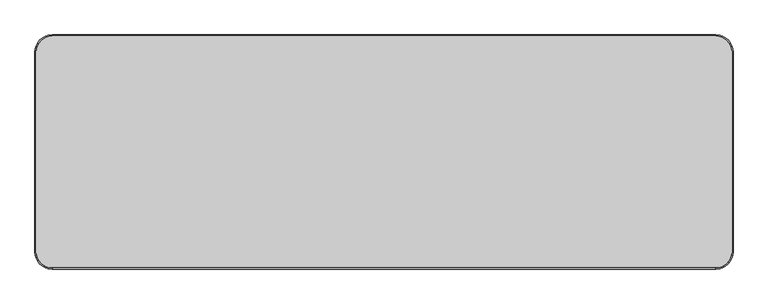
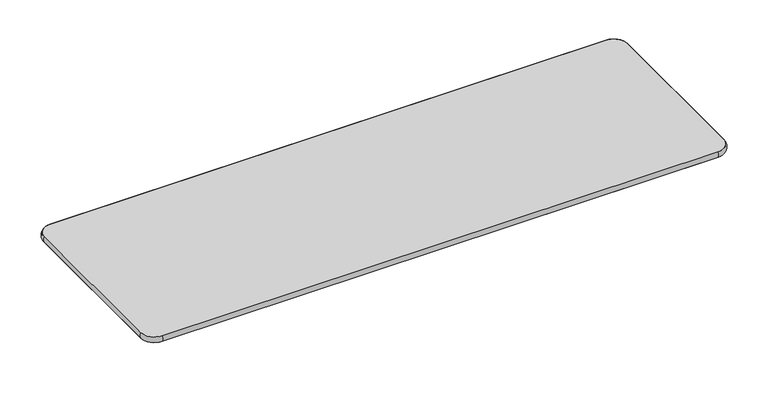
"""IFC4 building model written with IfcOpenShell, lengths in millimetres: furniture geometry, Mesa para refeitório : Mesa para refeitório 180x60cm cód 70472.4."""

import ifcopenshell
import ifcopenshell.guid

model = None  # the IFC model being written
_history = None  # IfcOwnerHistory: only IFC2X3 demands one
_inside = {}  # id of a spatial element -> (the spatial element, [elements in it])
_under = {}  # id of a project, library or spatial element -> (it, [spatial elements below it])
_declared = {}  # id of a project -> (the project, [libraries it declares])
_typed = {}  # id of a type object -> (the type object, [elements of that type])
_made_of = {}  # id of a material, layer set ... -> (it, [elements and type objects made of it])


def new_model(schema):
    """Start an empty IFC model of exactly this schema.

    Asked for "IFC4X3", IfcOpenShell would pick the latest addendum, in which some entities
    have other attributes; the version numbers below select the first issue.
    IFC2X3 requires an IfcOwnerHistory on every rooted entity: one is made here for all.
    """
    global model, _history
    if schema == "IFC4X3":
        model = ifcopenshell.file(schema_version=(4, 3, 0, 0))
    else:
        model = ifcopenshell.file(schema=schema)
    _inside.clear()
    _under.clear()
    _declared.clear()
    _typed.clear()
    _made_of.clear()
    _history = None
    if model.schema == "IFC2X3":
        org = make("IfcOrganization", Name="unknown")
        user = make(
            "IfcPersonAndOrganization",
            ThePerson=make("IfcPerson", FamilyName="unknown"),
            TheOrganization=org,
        )
        app = make(
            "IfcApplication",
            ApplicationDeveloper=org,
            Version="unknown",
            ApplicationFullName="unknown",
            ApplicationIdentifier="unknown",
        )
        _history = make(
            "IfcOwnerHistory",
            OwningUser=user,
            OwningApplication=app,
            ChangeAction="ADDED",
            CreationDate=0,
        )
    return model


def make(cls, **values):
    """One entity of the class cls with the attributes given. An attribute that is None is left unset."""
    return model.create_entity(
        cls, **{name: value for name, value in values.items() if value is not None}
    )


def rooted(cls, **values):
    """An entity with a GlobalId (a new one), such as an element, a storey or a relation."""
    return make(cls, GlobalId=ifcopenshell.guid.new(), OwnerHistory=_history, **values)


def si_unit(unit_type, name, prefix=None):
    """IfcSIUnit, for example si_unit("LENGTHUNIT", "METRE", prefix="MILLI")."""
    return make("IfcSIUnit", UnitType=unit_type, Prefix=prefix, Name=name)


def assignment(units):
    """IfcUnitAssignment: the units of a project."""
    return None if units is None else make("IfcUnitAssignment", Units=units)


def point(xyz):
    """IfcCartesianPoint."""
    return None if xyz is None else make("IfcCartesianPoint", Coordinates=xyz)


def direction(xyz):
    """IfcDirection."""
    return None if xyz is None else make("IfcDirection", DirectionRatios=xyz)


def frame(location, z_axis=None, x_axis=None):
    """IfcAxis2Placement3D, a coordinate frame: its origin and axes. An axis left out is left unset."""
    return make(
        "IfcAxis2Placement3D",
        Location=point(location),
        Axis=direction(z_axis),
        RefDirection=direction(x_axis),
    )


def frame_2d(location, x_axis=None):
    """IfcAxis2Placement2D, a coordinate frame in the plane: its origin and x axis."""
    return make(
        "IfcAxis2Placement2D", Location=point(location), RefDirection=direction(x_axis)
    )


def origin():
    """The frame at (0, 0, 0) with its axes left unset."""
    return frame((0.0, 0.0, 0.0))


def place(relative_to, where):
    """IfcLocalPlacement: puts the frame where relative to a parent placement (None: the world)."""
    return make(
        "IfcLocalPlacement", PlacementRelTo=relative_to, RelativePlacement=where
    )


def context(
    kind, dimensions, precision=None, world=None, true_north=None, identifier=None
):
    """IfcGeometricRepresentationContext, for example the 3D "Model" context."""
    return make(
        "IfcGeometricRepresentationContext",
        ContextIdentifier=identifier,
        ContextType=kind,
        CoordinateSpaceDimension=dimensions,
        Precision=precision,
        WorldCoordinateSystem=world,
        TrueNorth=true_north,
    )


def project(units=None, contexts=None):
    """IfcProject with its units and contexts."""
    return rooted(
        "IfcProject",
        Name="project",
        RepresentationContexts=contexts,
        UnitsInContext=assignment(units),
    )


def spatial(cls, under=None, at=None, **own):
    """A site, building, storey or space (cls), placed at a placement, below another one or the project."""
    s = rooted(cls, ObjectPlacement=at, **own)
    if under is not None:
        _under.setdefault(under.id(), (under, []))[1].append(s)
    return s


def polyline(points):
    """IfcPolyline through the points."""
    return make("IfcPolyline", Points=[point(p) for p in points])


def circle_curve(where, radius):
    """IfcCircle in the frame where."""
    return make("IfcCircle", Position=where, Radius=radius)


def ellipse_curve(where, semi_axis1, semi_axis2):
    """IfcEllipse in the frame where."""
    return make(
        "IfcEllipse", Position=where, SemiAxis1=semi_axis1, SemiAxis2=semi_axis2
    )


def trimmed(basis, trim1, trim2, sense, master):
    """IfcTrimmedCurve: the piece of a basis curve between two trims."""
    return make(
        "IfcTrimmedCurve",
        BasisCurve=basis,
        Trim1=trim1,
        Trim2=trim2,
        SenseAgreement=sense,
        MasterRepresentation=master,
    )


def segment(curve, same_sense, transition):
    """IfcCompositeCurveSegment."""
    return make(
        "IfcCompositeCurveSegment",
        Transition=transition,
        SameSense=same_sense,
        ParentCurve=curve,
    )


def composite_curve(segments, self_intersect=None):
    """IfcCompositeCurve: segments joined end to end."""
    return make("IfcCompositeCurve", Segments=segments, SelfIntersect=self_intersect)


def outline(outer, holes=None, kind="AREA"):
    """IfcArbitraryClosedProfileDef: a profile drawn as a closed curve; with holes, ...WithVoids."""
    if holes is None:
        return make("IfcArbitraryClosedProfileDef", ProfileType=kind, OuterCurve=outer)
    return make(
        "IfcArbitraryProfileDefWithVoids",
        ProfileType=kind,
        OuterCurve=outer,
        InnerCurves=holes,
    )


def extrude(swept, where, along, depth):
    """IfcExtrudedAreaSolid: the profile swept, set in the frame where, extruded along a direction by depth."""
    return make(
        "IfcExtrudedAreaSolid",
        SweptArea=swept,
        Position=where,
        ExtrudedDirection=direction(along),
        Depth=depth,
    )


def shape(context_of_items, identifier, shape_type, items):
    """IfcShapeRepresentation: the items that make up one representation, for example the "Body"."""
    return make(
        "IfcShapeRepresentation",
        ContextOfItems=context_of_items,
        RepresentationIdentifier=identifier,
        RepresentationType=shape_type,
        Items=items,
    )


def source(mapping_origin, context_of_items, identifier, shape_type, items):
    """IfcRepresentationMap: a shape defined once, which mapped items show again and again."""
    return make(
        "IfcRepresentationMap",
        MappingOrigin=mapping_origin,
        MappedRepresentation=shape(context_of_items, identifier, shape_type, items),
    )


def transform(
    local_origin,
    x_axis=None,
    y_axis=None,
    z_axis=None,
    scale=None,
    scale2=None,
    scale3=None,
    uniform=True,
):
    """IfcCartesianTransformationOperator3D, or its non-uniform kind. x_axis, y_axis, z_axis: its Axis1, 2, 3."""
    if uniform:
        return make(
            "IfcCartesianTransformationOperator3D",
            Axis1=direction(x_axis),
            Axis2=direction(y_axis),
            LocalOrigin=point(local_origin),
            Scale=scale,
            Axis3=direction(z_axis),
        )
    return make(
        "IfcCartesianTransformationOperator3DnonUniform",
        Axis1=direction(x_axis),
        Axis2=direction(y_axis),
        LocalOrigin=point(local_origin),
        Scale=scale,
        Axis3=direction(z_axis),
        Scale2=scale2,
        Scale3=scale3,
    )


def mapped(mapping_source, mapping_target):
    """IfcMappedItem: shows the shape of a source again, moved by a transform."""
    return make(
        "IfcMappedItem", MappingSource=mapping_source, MappingTarget=mapping_target
    )


def made_of(thing, what):
    """Note that an element or type object is made of a material, layer set ...; save() writes the relation."""
    if what is not None:
        _made_of.setdefault(what.id(), (what, []))[1].append(thing)
    return thing


def element(
    cls,
    number,
    at=None,
    inside=None,
    cuts=None,
    type_object=None,
    material=None,
    context=None,
    identifier="Body",
    shape_type=None,
    held_by="IfcProductDefinitionShape",
    body=None,
    shapes=None,
    **own,
):
    """One element of the class cls, such as IfcWall. Its Tag is "e" and its number.

    at: its placement. inside: the storey or other place that contains it. cuts: it is an
    opening in that element (IfcRelVoidsElement). A single representation is given by context,
    identifier, shape_type and body (its items); several are given by shapes. held_by: the class
    of the entity that holds the representations. save() writes the other relations.
    """
    e = rooted(cls, Tag="e%d" % number, ObjectPlacement=at, **own)
    if body is not None:
        shapes = [shape(context, identifier, shape_type, body)]
    if shapes is not None:
        e.Representation = make(held_by, Representations=shapes)
    if inside is not None:
        _inside.setdefault(inside.id(), (inside, []))[1].append(e)
    if cuts is not None:
        rooted(
            "IfcRelVoidsElement", RelatingBuildingElement=cuts, RelatedOpeningElement=e
        )
    if type_object is not None:
        _typed.setdefault(type_object.id(), (type_object, []))[1].append(e)
    return made_of(e, material)


def aggregate(whole, parts):
    """IfcRelAggregates: a whole, such as a stair, and the parts it consists of."""
    return rooted("IfcRelAggregates", RelatingObject=whole, RelatedObjects=parts)


def save(model, path):
    """Write the relations noted so far, then the file.

    IfcRelAggregates (storeys below a building ...), IfcRelContainedInSpatialStructure (elements
    in a storey), IfcRelDefinesByType, IfcRelAssociatesMaterial and IfcRelDeclares: one each for
    every whole, place, type object, material and project.
    """
    for whole, parts in _under.values():
        aggregate(whole, parts)
    for where, things in _inside.values():
        rooted(
            "IfcRelContainedInSpatialStructure",
            RelatedElements=things,
            RelatingStructure=where,
        )
    for kind, things in _typed.values():
        rooted("IfcRelDefinesByType", RelatedObjects=things, RelatingType=kind)
    for what, things in _made_of.values():
        rooted("IfcRelAssociatesMaterial", RelatedObjects=things, RelatingMaterial=what)
    for by, libraries in _declared.values():
        rooted("IfcRelDeclares", RelatingContext=by, RelatedDefinitions=libraries)
    model.write(path)


def plane_surface(at):
    """IfcPlane: the flat surface through the origin of the frame at, square to its z axis."""
    return make("IfcPlane", Position=at)


def cylinder_surface(at, radius):
    """IfcCylindricalSurface: all points at the distance radius from the z axis of the frame at."""
    return make("IfcCylindricalSurface", Position=at, Radius=radius)


def revolved_surface(curve, axis_point, axis_direction):
    """IfcSurfaceOfRevolution: the curve turned about the line through axis_point along axis_direction."""
    return make(
        "IfcSurfaceOfRevolution",
        SweptCurve=make("IfcArbitraryOpenProfileDef", ProfileType="CURVE", Curve=curve),
        AxisPosition=make("IfcAxis1Placement", Location=point(axis_point), Axis=direction(axis_direction)),
    )


def advanced_brep(points, edges, surfaces, faces):
    """IfcAdvancedBrep: a solid bounded by faces that lie on surfaces and meet in shared edges.

    An edge is (start, end): straight between two places in points (the first is 0);
    or (start, end, curve); or (start, end, curve, False) where it runs against its curve.
    A face is (place in surfaces, loops), or (place, loops, False) where it looks against
    its surface's normal. A loop lists edges by number (the first is 1), with a minus sign
    where the edge is run from its end to its start. The first loop is the outer one.
    """
    corners = [point(p) for p in points]
    vertices = [make("IfcVertexPoint", VertexGeometry=c) for c in corners]
    made = []
    for start, end, *more in edges:
        made.append(
            make(
                "IfcEdgeCurve",
                EdgeStart=vertices[start],
                EdgeEnd=vertices[end],
                EdgeGeometry=more[0] if more else make("IfcPolyline", Points=[corners[start], corners[end]]),
                SameSense=more[1] if len(more) > 1 else True,
            )
        )
    hull = []
    for where, loops, *sense in faces:
        bounds = []
        for j, loop in enumerate(loops):
            ring = [make("IfcOrientedEdge", EdgeElement=made[abs(k) - 1], Orientation=k > 0) for k in loop]
            bounds.append(
                make(
                    "IfcFaceOuterBound" if j == 0 else "IfcFaceBound",
                    Bound=make("IfcEdgeLoop", EdgeList=ring),
                    Orientation=True,
                )
            )
        hull.append(make("IfcAdvancedFace", Bounds=bounds, FaceSurface=surfaces[where], SameSense=sense[0] if sense else True))
    return make("IfcAdvancedBrep", Outer=make("IfcClosedShell", CfsFaces=hull))


def furniture_32a7f20c(model_context):
    return source(origin(), model_context, "Body", "SolidModel", [
        extrude(outline(composite_curve([segment(polyline([(-805.6618953, -42.5875081), (-867.0206397, -256.5708799), (-879.5170418, -252.9875943)]), True, "CONTINUOUS"), segment(trimmed(circle_curve(frame_2d((-878.138855, -248.1812858)), 5.0), [point((-879.5170418, -252.9875943))], [point((-882.9451635, -246.803099))], False, "CARTESIAN"), True, "CONTINUOUS"), segment(polyline([(-882.9451635, -246.803099), (-824.3872851, -42.5875081), (-805.6618953, -42.5875081)]), True, "CONTINUOUS")], self_intersect=False)), frame((0.0, 0.0, 620.0), z_axis=(0.0, 0.0, 1.0), x_axis=(1.0, 0.0, 0.0)), (0.0, 0.0, 1.0), 2.0),
        extrude(outline(composite_curve([segment(polyline([(805.6618953, 42.5875081), (867.0206397, 256.5708799), (879.5170418, 252.9875943)]), True, "CONTINUOUS"), segment(trimmed(circle_curve(frame_2d((878.138855, 248.1812858)), 5.0), [point((879.5170418, 252.9875943))], [point((882.9451635, 246.803099))], False, "CARTESIAN"), True, "CONTINUOUS"), segment(polyline([(882.9451635, 246.803099), (824.3872851, 42.5875081), (805.6618953, 42.5875081)]), True, "CONTINUOUS")], self_intersect=False)), frame((0.0, 0.0, 620.0), z_axis=(0.0, 0.0, 1.0), x_axis=(1.0, 0.0, 0.0)), (0.0, 0.0, 1.0), 2.0),
        extrude(outline(composite_curve([segment(polyline([(805.6618953, -42.5875081), (824.3872851, -42.5875081), (882.9451635, -246.803099)]), True, "CONTINUOUS"), segment(trimmed(circle_curve(frame_2d((878.138855, -248.1812858)), 5.0), [point((882.9451635, -246.803099))], [point((879.5170418, -252.9875943))], False, "CARTESIAN"), True, "CONTINUOUS"), segment(polyline([(879.5170418, -252.9875943), (867.0206397, -256.5708799), (805.6618953, -42.5875081)]), True, "CONTINUOUS")], self_intersect=False)), frame((0.0, 0.0, 620.0), z_axis=(0.0, 0.0, 1.0), x_axis=(1.0, 0.0, 0.0)), (0.0, 0.0, 1.0), 2.0),
        extrude(outline(composite_curve([segment(polyline([(805.6618953, -42.5875081), (823.7270534, -42.5875081), (823.7270534, -140.8530223)]), True, "CONTINUOUS"), segment(trimmed(circle_curve(frame_2d((818.7270534, -140.8530223)), 5.0), [point((823.7270534, -140.8530223))], [point((818.7270534, -145.8530223))], False, "CARTESIAN"), True, "CONTINUOUS"), segment(polyline([(818.7270534, -145.8530223), (805.6618953, -145.8530223), (805.6618953, -42.5875081)]), True, "CONTINUOUS")], self_intersect=False)), frame((0.0, 0.0, 620.0), z_axis=(0.0, 0.0, 1.0), x_axis=(1.0, 0.0, 0.0)), (0.0, 0.0, 1.0), 2.0),
        extrude(outline(polyline([(-799.6955742, 28.681337), (-799.6955742, -28.681337), (-801.5529394, -28.1300623), (-801.5529394, 28.1300623), (-799.6955742, 28.681337)])), frame((0.0, 0.0, 562.0), z_axis=(0.0, 0.0, 1.0), x_axis=(1.0, 0.0, 0.0)), (0.0, 0.0, 1.0), 60.0),
        extrude(outline(composite_curve([segment(polyline([(-60.1181829, 0.0), (0.0, 0.0), (0.0, -229.4943371)]), True, "CONTINUOUS"), segment(trimmed(circle_curve(frame_2d((-8.0489664, -229.4943371)), 8.0489664), [point((0.0, -229.4943371))], [point((-15.3438074, -232.8959773))], False, "CARTESIAN"), True, "CONTINUOUS"), segment(polyline([(-15.3438074, -232.8959773), (-60.1181829, 0.0)]), True, "CONTINUOUS")], self_intersect=False)), frame((-799.6955742, -28.681337, 622.0), z_axis=(-0.961261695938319, 0.2756373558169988, 0.0), x_axis=(0.0, 0.0, 1.0)), (0.0, 0.0, 1.0), 1.932216),
        extrude(outline(composite_curve([segment(polyline([(60.1181829, 0.0), (15.3438074, -232.8959773)]), True, "CONTINUOUS"), segment(trimmed(circle_curve(frame_2d((8.0489664, -229.4943371)), 8.0489664), [point((15.3438074, -232.8959773))], [point((0.0, -229.4943371))], False, "CARTESIAN"), True, "CONTINUOUS"), segment(polyline([(0.0, -229.4943371), (0.0, 0.0), (60.1181829, 0.0)]), True, "CONTINUOUS")], self_intersect=False)), frame((801.5162894, 28.1300623, 622.0), z_axis=(-0.961261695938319, 0.2756373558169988, 0.0), x_axis=(0.0, 0.0, -1.0)), (0.0, 0.0, 1.0), 2.0),
        extrude(outline(polyline([(799.593766, 28.681337), (801.5162894, 28.1300623), (801.5162894, -28.1300623), (799.593766, -28.681337), (799.593766, 28.681337)])), frame((0.0, 0.0, 562.0), z_axis=(0.0, 0.0, 1.0), x_axis=(1.0, 0.0, 0.0)), (0.0, 0.0, 1.0), 60.0),
        extrude(outline(composite_curve([segment(polyline([(-2.0, -20.0), (-2.0, -266.247878), (-15.0, -266.247878)]), True, "CONTINUOUS"), segment(trimmed(circle_curve(frame_2d((-15.0, -261.247878)), 5.0), [point((-15.0, -266.247878))], [point((-20.0, -261.247878))], False, "CARTESIAN"), True, "CONTINUOUS"), segment(polyline([(-20.0, -261.247878), (-20.0, -20.0), (-2.0, -20.0)]), True, "CONTINUOUS")], self_intersect=False)), frame((0.0, 0.0, 620.0), z_axis=(0.0, 0.0, 1.0), x_axis=(1.0, 0.0, 0.0)), (0.0, 0.0, 1.0), 2.0),
        extrude(outline(composite_curve([segment(polyline([(-20.0, 563.2373612), (-266.247878, 606.6561926)]), True, "CONTINUOUS"), segment(trimmed(circle_curve(frame_2d((-262.8462378, 613.9510336)), 8.0489664), [point((-266.247878, 606.6561926))], [point((-262.8462378, 622.0))], False, "CARTESIAN"), True, "CONTINUOUS"), segment(polyline([(-262.8462378, 622.0), (-20.0, 622.0), (-20.0, 563.2373612)]), True, "CONTINUOUS")], self_intersect=False)), frame((-2.0, 0.0, 0.0), z_axis=(1.0, 0.0, 0.0), x_axis=(0.0, 1.0, 0.0)), (0.0, 0.0, 1.0), 2.0),
        extrude(outline(composite_curve([segment(polyline([(0.0, 0.0), (237.1608757, 0.0)]), True, "CONTINUOUS"), segment(trimmed(circle_curve(frame_2d((235.1976245, -7.8058636)), 8.0489664), [point((237.1608757, 0.0))], [point((236.7172151, -15.7100843))], False, "CARTESIAN"), True, "CONTINUOUS"), segment(polyline([(236.7172151, -15.7100843), (11.3499079, -59.0370689), (0.0, 0.0)]), True, "CONTINUOUS")], self_intersect=False)), frame((799.593766, -28.681337, 561.8818171), z_axis=(0.961261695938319, 0.2756373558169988, 0.0), x_axis=(0.27068052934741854, -0.9439751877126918, 0.18879326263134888)), (0.0, 0.0, 1.0), 2.0),
        extrude(outline(composite_curve([segment(polyline([(-2.0, 20.0), (-20.0, 20.0), (-20.0, 261.247878)]), True, "CONTINUOUS"), segment(trimmed(circle_curve(frame_2d((-15.0, 261.247878)), 5.0), [point((-20.0, 261.247878))], [point((-15.0, 266.247878))], False, "CARTESIAN"), True, "CONTINUOUS"), segment(polyline([(-15.0, 266.247878), (-2.0, 266.247878), (-2.0, 20.0)]), True, "CONTINUOUS")], self_intersect=False)), frame((0.0, 0.0, 620.0), z_axis=(0.0, 0.0, 1.0), x_axis=(1.0, 0.0, 0.0)), (0.0, 0.0, 1.0), 2.0),
        extrude(outline(composite_curve([segment(polyline([(20.0, 563.2373612), (20.0, 622.0), (262.8462378, 622.0)]), True, "CONTINUOUS"), segment(trimmed(circle_curve(frame_2d((262.8462378, 613.9510336)), 8.0489664), [point((262.8462378, 622.0))], [point((266.247878, 606.6561926))], False, "CARTESIAN"), True, "CONTINUOUS"), segment(polyline([(266.247878, 606.6561926), (20.0, 563.2373612)]), True, "CONTINUOUS")], self_intersect=False)), frame((-2.0, 0.0, 0.0), z_axis=(1.0, 0.0, 0.0), x_axis=(0.0, 1.0, 0.0)), (0.0, 0.0, 1.0), 2.0),
        extrude(outline(polyline([(800.0651581, -20.0), (-800.0651581, -20.0), (-800.0651581, 20.0), (800.0651581, 20.0), (800.0651581, -20.0)])), frame((0.0, 0.0, 562.0), z_axis=(0.0, 0.0, 1.0), x_axis=(1.0, 0.0, 0.0)), (0.0, 0.0, 1.0), 60.0),
        advanced_brep(
        [(900.0, -258.1259063, 640.0), (858.1259063, -300.0, 640.0), (858.1259063, -300.0, 622.0), (900.0, -258.1259063, 622.0), (900.0, 258.1259063, 622.0), (900.0, 258.1259063, 640.0), (858.1259063, 300.0, 640.0), (858.1259063, 300.0, 622.0), (-858.2277145, 300.0, 622.0), (-858.2277145, 300.0, 640.0), (-900.0, 258.2277145, 640.0), (-900.0, 258.2277145, 622.0), (-900.0, -258.2277145, 622.0), (-900.0, -258.2277145, 640.0), (-858.2277145, -300.0, 640.0), (-858.2277145, -300.0, 622.0)],
        [
            (0, 1, circle_curve(frame((858.1259063, -258.1259063, 640.0), z_axis=(0.0, 0.0, -1.0), x_axis=(0.0, -1.0, 0.0)), 41.8740937)),
            (1, 2, circle_curve(frame((858.1259063, -286.6032084, 631.0), z_axis=(1.0, 0.0, 0.0), x_axis=(0.0, 1.0, 0.0)), 16.1392077)),
            (2, 3, circle_curve(frame((858.1259063, -258.1259063, 622.0), z_axis=(0.0, 0.0, 1.0), x_axis=(0.0, -1.0, 0.0)), 41.8740937)),
            (3, 0, circle_curve(frame((886.6032084, -258.1259063, 631.0), z_axis=(0.0, -1.0, 0.0), x_axis=(-1.0, 0.0, 0.0)), 16.1392077)),
            (2, 1),
            (0, 3),
            (3, 4),
            (4, 5, circle_curve(frame((886.6032084, 258.1259063, 631.0), z_axis=(0.0, -1.0, 0.0), x_axis=(-1.0, 0.0, 0.0)), 16.1392077)),
            (5, 0),
            (5, 4),
            (6, 5, circle_curve(frame((858.1259063, 258.1259063, 640.0), z_axis=(0.0, 0.0, -1.0), x_axis=(1.0, 0.0, 0.0)), 41.8740937)),
            (4, 7, circle_curve(frame((858.1259063, 258.1259063, 622.0), z_axis=(0.0, 0.0, 1.0), x_axis=(1.0, 0.0, 0.0)), 41.8740937)),
            (7, 6, circle_curve(frame((858.1259063, 286.6032084, 631.0), z_axis=(1.0, 0.0, 0.0), x_axis=(0.0, -1.0, 0.0)), 16.1392077)),
            (6, 7),
            (7, 8),
            (8, 9, circle_curve(frame((-858.2277145, 286.6032084, 631.0), z_axis=(1.0, 0.0, 0.0), x_axis=(0.0, -1.0, 0.0)), 16.1392077)),
            (9, 6),
            (9, 8),
            (10, 9, circle_curve(frame((-858.2277145, 258.2277145, 640.0), z_axis=(0.0, 0.0, -1.0), x_axis=(0.0, 1.0, 0.0)), 41.7722855)),
            (8, 11, circle_curve(frame((-858.2277145, 258.2277145, 622.0), z_axis=(0.0, 0.0, 1.0), x_axis=(0.0, 1.0, 0.0)), 41.7722855)),
            (11, 10, circle_curve(frame((-886.6032084, 258.2277145, 631.0), z_axis=(0.0, 1.0, 0.0), x_axis=(1.0, 0.0, 0.0)), 16.1392077)),
            (10, 11),
            (11, 12),
            (12, 13, circle_curve(frame((-886.6032084, -258.2277145, 631.0), z_axis=(0.0, 1.0, 0.0), x_axis=(1.0, 0.0, 0.0)), 16.1392077)),
            (13, 10),
            (13, 12),
            (14, 13, circle_curve(frame((-858.2277145, -258.2277145, 640.0), z_axis=(0.0, 0.0, -1.0), x_axis=(-1.0, 0.0, 0.0)), 41.7722855)),
            (12, 15, circle_curve(frame((-858.2277145, -258.2277145, 622.0), z_axis=(0.0, 0.0, 1.0), x_axis=(-1.0, 0.0, 0.0)), 41.7722855)),
            (15, 14, circle_curve(frame((-858.2277145, -286.6032084, 631.0), z_axis=(-1.0, 0.0, 0.0), x_axis=(0.0, 1.0, 0.0)), 16.1392077)),
            (14, 15),
            (15, 2),
            (1, 14),
        ],
        [
            revolved_surface(trimmed(ellipse_curve(frame((858.1259063, -286.6032084, 631.0), z_axis=(-1.0, 0.0, 0.0), x_axis=(0.0, 1.0, 0.0)), 16.1392077, 16.1392077), [point((858.1259063, -300.0, 622.0))], [point((858.1259063, -300.0, 640.0))], True, "CARTESIAN"), (858.1259063, -258.1259063, 640.0), (0.0, 0.0, 1.0)),
            revolved_surface(polyline([(858.1259063, -300.0, 640.0), (858.1259063, -300.0, 622.0)]), (858.1259063, -258.1259063, 640.0), (0.0, 0.0, 1.0)),
            cylinder_surface(frame((886.6032084, -258.1259063, 631.0), z_axis=(0.0, -1.0, 0.0), x_axis=(-1.0, 0.0, 0.0)), 16.1392077),
            plane_surface(frame((900.0, -258.1259063, 640.0), z_axis=(-1.0, 0.0, 0.0), x_axis=(0.0, 1.0, 0.0))),
            revolved_surface(trimmed(ellipse_curve(frame((886.6032084, 258.1259063, 631.0), z_axis=(0.0, -1.0, 0.0), x_axis=(-1.0, 0.0, 0.0)), 16.1392077, 16.1392077), [point((900.0, 258.1259063, 622.0))], [point((900.0, 258.1259063, 640.0))], True, "CARTESIAN"), (858.1259063, 258.1259063, 640.0), (0.0, 0.0, 1.0)),
            revolved_surface(polyline([(900.0, 258.1259063, 640.0), (900.0, 258.1259063, 622.0)]), (858.1259063, 258.1259063, 640.0), (0.0, 0.0, 1.0)),
            cylinder_surface(frame((858.1259063, 286.6032084, 631.0), z_axis=(1.0, 0.0, 0.0), x_axis=(0.0, -1.0, 0.0)), 16.1392077),
            plane_surface(frame((858.1259063, 300.0, 640.0), z_axis=(0.0, -1.0, 0.0), x_axis=(-1.0, 0.0, 0.0))),
            revolved_surface(trimmed(ellipse_curve(frame((-858.2277145, 286.6032084, 631.0), z_axis=(1.0, 0.0, 0.0), x_axis=(0.0, -1.0, 0.0)), 16.1392077, 16.1392077), [point((-858.2277145, 300.0, 622.0))], [point((-858.2277145, 300.0, 640.0))], True, "CARTESIAN"), (-858.2277145, 258.2277145, 640.0), (0.0, 0.0, 1.0)),
            revolved_surface(polyline([(-858.2277145, 300.0, 640.0), (-858.2277145, 300.0, 622.0)]), (-858.2277145, 258.2277145, 640.0), (0.0, 0.0, 1.0)),
            cylinder_surface(frame((-886.6032084, 258.2277145, 631.0), z_axis=(0.0, 1.0, 0.0), x_axis=(1.0, 0.0, 0.0)), 16.1392077),
            plane_surface(frame((-900.0, 258.2277145, 640.0), z_axis=(1.0, 0.0, 0.0), x_axis=(0.0, -1.0, 0.0))),
            revolved_surface(trimmed(ellipse_curve(frame((-886.6032084, -258.2277145, 631.0), z_axis=(0.0, 1.0, 0.0), x_axis=(1.0, 0.0, 0.0)), 16.1392077, 16.1392077), [point((-900.0, -258.2277145, 622.0))], [point((-900.0, -258.2277145, 640.0))], True, "CARTESIAN"), (-858.2277145, -258.2277145, 640.0), (0.0, 0.0, 1.0)),
            revolved_surface(polyline([(-900.0, -258.2277145, 640.0), (-900.0, -258.2277145, 622.0)]), (-858.2277145, -258.2277145, 640.0), (0.0, 0.0, 1.0)),
            cylinder_surface(frame((-858.2277145, -286.6032084, 631.0), z_axis=(-1.0, 0.0, 0.0), x_axis=(0.0, 1.0, 0.0)), 16.1392077),
            plane_surface(frame((-858.2277145, -300.0, 640.0), z_axis=(0.0, 1.0, 0.0), x_axis=(1.0, 0.0, 0.0))),
        ],
        [
            (0, [[1, 2, 3, 4]]),
            (1, [[-3, 5, -1, 6]]),
            (2, [[-4, 7, 8, 9]]),
            (3, [[-6, -9, 10, -7]]),
            (4, [[11, -8, 12, 13]]),
            (5, [[-12, -10, -11, 14]]),
            (6, [[-13, 15, 16, 17]]),
            (7, [[-14, -17, 18, -15]]),
            (8, [[19, -16, 20, 21]]),
            (9, [[-20, -18, -19, 22]]),
            (10, [[-21, 23, 24, 25]]),
            (11, [[-22, -25, 26, -23]]),
            (12, [[27, -24, 28, 29]]),
            (13, [[-28, -26, -27, 30]]),
            (14, [[-29, 31, -2, 32]]),
            (15, [[-30, -32, -5, -31]]),
        ],
    ),
        extrude(outline(composite_curve([segment(trimmed(circle_curve(frame_2d((858.1259063, 258.1259063)), 41.8740937), [point((858.1259063, 300.0))], [point((900.0, 258.1259063))], False, "CARTESIAN"), True, "CONTINUOUS"), segment(polyline([(900.0, 258.1259063), (900.0, -258.1259063)]), True, "CONTINUOUS"), segment(trimmed(circle_curve(frame_2d((858.1259063, -258.1259063)), 41.8740937), [point((900.0, -258.1259063))], [point((858.1259063, -300.0))], False, "CARTESIAN"), True, "CONTINUOUS"), segment(polyline([(858.1259063, -300.0), (-858.2277145, -300.0)]), True, "CONTINUOUS"), segment(trimmed(circle_curve(frame_2d((-858.2277145, -258.2277145)), 41.7722855), [point((-858.2277145, -300.0))], [point((-900.0, -258.2277145))], False, "CARTESIAN"), True, "CONTINUOUS"), segment(polyline([(-900.0, -258.2277145), (-900.0, 258.2277145)]), True, "CONTINUOUS"), segment(trimmed(circle_curve(frame_2d((-858.2277145, 258.2277145)), 41.7722855), [point((-900.0, 258.2277145))], [point((-858.2277145, 300.0))], False, "CARTESIAN"), True, "CONTINUOUS"), segment(polyline([(-858.2277145, 300.0), (858.1259063, 300.0)]), True, "CONTINUOUS")], self_intersect=False)), frame((0.0, 0.0, 622.0), z_axis=(0.0, 0.0, 1.0), x_axis=(1.0, 0.0, 0.0)), (0.0, 0.0, 1.0), 18.0),
    ])


if __name__ == "__main__":
    model = new_model("IFC4")
    model_context = context("Model", 3, world=origin())
    ifc_project = project(units=[si_unit("LENGTHUNIT", "METRE", prefix="MILLI")], contexts=[model_context])
    site = spatial("IfcSite", under=ifc_project)
    building = spatial("IfcBuilding", under=site)
    placement = place(None, origin())
    furniture_shape = furniture_32a7f20c(model_context)
    element("IfcFurniture", 1, ObjectType="Mesa para refeitório : Mesa para refeitório 180x60cm cód 70472.4", at=placement, inside=building, context=model_context, shape_type="MappedRepresentation", body=[
        mapped(furniture_shape, transform((0.0, 0.0, 0.0), x_axis=(1.0, 0.0, 0.0), y_axis=(0.0, 1.0, 0.0), z_axis=(0.0, 0.0, 1.0))),
    ])
    save(model, "model.ifc")
